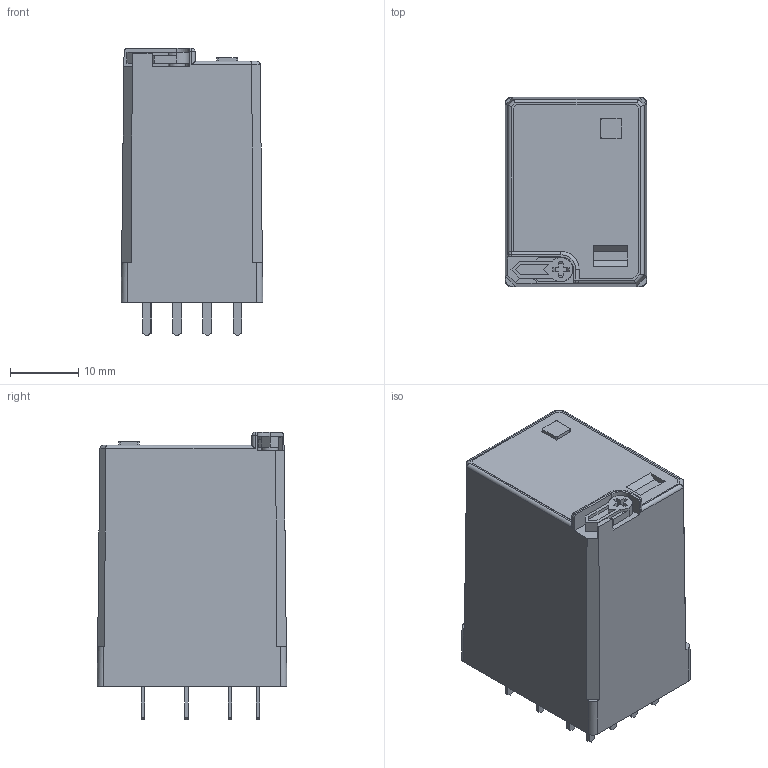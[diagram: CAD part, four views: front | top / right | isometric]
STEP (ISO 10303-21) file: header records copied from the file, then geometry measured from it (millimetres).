
FILE_DESCRIPTION(('STEP AP214'),'2;1');
FILE_NAME('complessivo 55 4 sc con pulsante CS AC---catalogo.stp','2010-11-19T14:25:42',(''),(''),'2007.1.106','THINKDESIGN','');
FILE_SCHEMA(('AUTOMOTIVE_DESIGN'));
Length unit declared in the file: millimetre
Products named in the file (1): None
Bounding box: 20.7 x 27.7 x 42 mm (x, y, z)
Surface area: 7622.4 mm2 (no closed solid volume)
Topology: 0 solids, 0 shells, 324 faces, 1801 edges, 1791 vertices
Faces by surface type: plane 238, cylinder 56, bspline 30
Full cylindrical faces by diameter (mm): 2.5 x1, 5 x1
Entity records: 18664 total; most frequent: CARTESIAN_POINT 5449, DIRECTION 2285, COMPOSITE_CURVE_SEGMENT 1799, TRIMMED_CURVE 1599, VECTOR 1507, LINE 1507, AXIS2_PLACEMENT_3D 389, OUTER_BOUNDARY_CURVE 324
